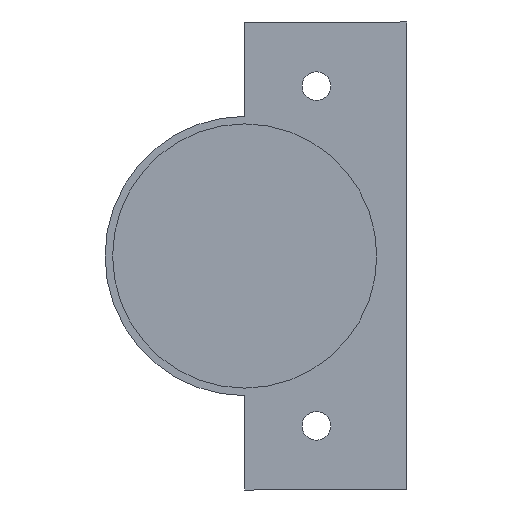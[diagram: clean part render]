
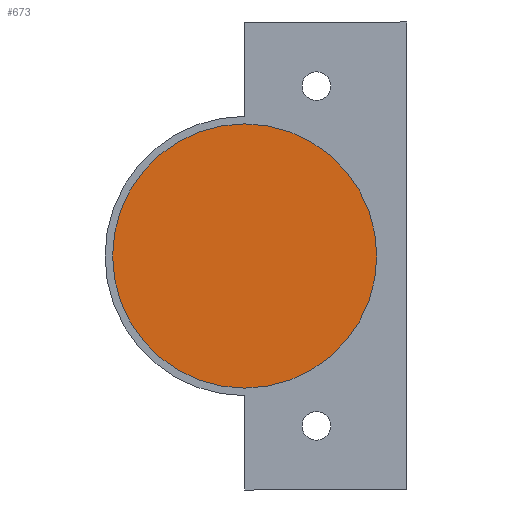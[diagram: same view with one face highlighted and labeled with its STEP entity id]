
A CAD part, front view. The second image highlights one B-rep face of the part: STEP entity #673.
In plain terms, the highlighted planar face has unit normal (0, -1, 0).
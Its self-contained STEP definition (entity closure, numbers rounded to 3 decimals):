
#94 = DIRECTION ( 'NONE',  ( 1., 0., 0. ) ) ;
#100 = DIRECTION ( 'NONE',  ( 0., -1., 0. ) ) ;
#106 = PLANE ( 'NONE',  #514 ) ;
#163 = CARTESIAN_POINT ( 'NONE',  ( 12., -51.1, 0. ) ) ;
#221 = CARTESIAN_POINT ( 'NONE',  ( 29.5, -51.1, 0. ) ) ;
#268 = DIRECTION ( 'NONE',  ( 1., 0., 0. ) ) ;
#316 = CIRCLE ( 'NONE', #873, 17.5 ) ;
#321 = DIRECTION ( 'NONE',  ( 0., -1., 0. ) ) ;
#475 = ORIENTED_EDGE ( 'NONE', *, *, #1301, .T. ) ;
#514 = AXIS2_PLACEMENT_3D ( 'NONE', #163, #100, #94 ) ;
#529 = CARTESIAN_POINT ( 'NONE',  ( 12., -51.1, 0. ) ) ;
#609 = AXIS2_PLACEMENT_3D ( 'NONE', #529, #321, #268 ) ;
#619 = VERTEX_POINT ( 'NONE', #1030 ) ;
#673 = ADVANCED_FACE ( 'NONE', ( #923 ), #106, .T. ) ;
#701 = EDGE_CURVE ( 'NONE', #887, #619, #1182, .T. ) ;
#873 = AXIS2_PLACEMENT_3D ( 'NONE', #1252, #1167, #1161 ) ;
#887 = VERTEX_POINT ( 'NONE', #221 ) ;
#923 = FACE_OUTER_BOUND ( 'NONE', #1025, .T. ) ;
#1025 = EDGE_LOOP ( 'NONE', ( #475, #1196 ) ) ;
#1030 = CARTESIAN_POINT ( 'NONE',  ( -5.5, -51.1, 0. ) ) ;
#1161 = DIRECTION ( 'NONE',  ( 1., 0., 0. ) ) ;
#1167 = DIRECTION ( 'NONE',  ( 0., -1., 0. ) ) ;
#1182 = CIRCLE ( 'NONE', #609, 17.5 ) ;
#1196 = ORIENTED_EDGE ( 'NONE', *, *, #701, .T. ) ;
#1252 = CARTESIAN_POINT ( 'NONE',  ( 12., -51.1, 0. ) ) ;
#1301 = EDGE_CURVE ( 'NONE', #619, #887, #316, .T. ) ;
